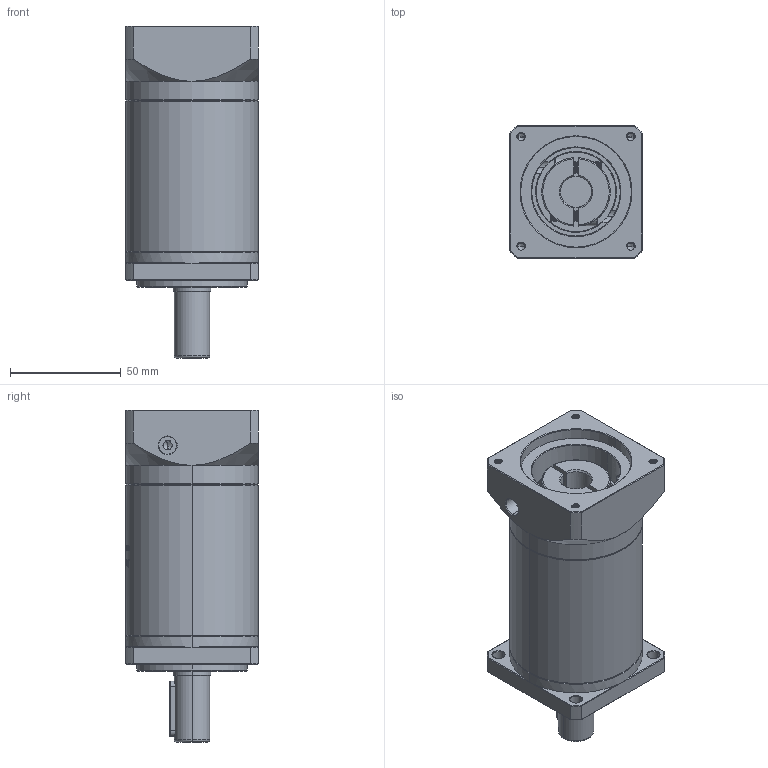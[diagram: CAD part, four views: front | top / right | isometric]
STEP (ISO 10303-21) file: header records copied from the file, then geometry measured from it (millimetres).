
FILE_DESCRIPTION (( 'STEP AP214' ), '1' );
FILE_NAME ('ZF060-D16-L3-P2-14-50-70-M4.step', '2023-08-16T04:28:30', ( '' ), ( '' ), 'SwSTEP 2.0', 'SolidWorks 2016', '' );
FILE_SCHEMA (( 'AUTOMOTIVE_DESIGN' ));
Length unit declared in the file: millimetre
Products named in the file (1): ZF060-D16-L3-P2-14-50-70-M4
Bounding box: 60 x 60 x 150 mm (x, y, z)
Volume: 321341.6 mm3; surface area: 50466.4 mm2
Topology: 6 solids, 6 shells, 1734 faces, 4694 edges, 3043 vertices
Faces by surface type: plane 794, bspline 354, cylinder 332, cone 236, torus 18
Entity records: 96247 total; most frequent: CARTESIAN_POINT 37708, ORIENTED_EDGE 9360, DIRECTION 6704, EDGE_CURVE 4680, VERTEX_POINT 3043, VECTOR 2372, LINE 2372, AXIS2_PLACEMENT_3D 2166
